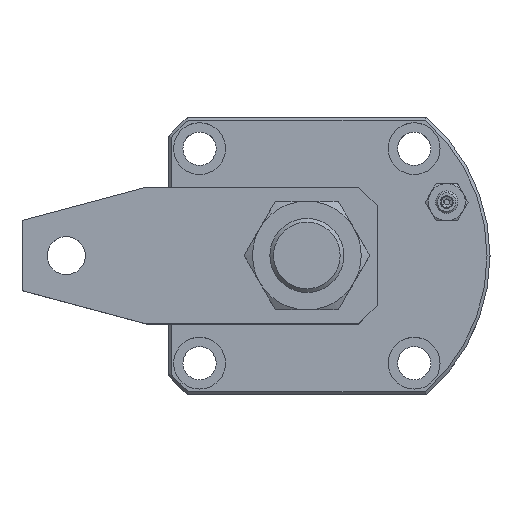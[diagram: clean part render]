
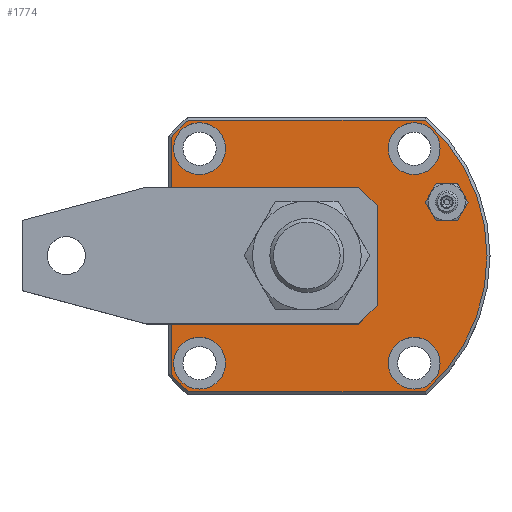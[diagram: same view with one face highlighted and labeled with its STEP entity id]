
A CAD part, top view. The second image highlights one B-rep face of the part: STEP entity #1774.
In plain terms, the highlighted planar face has unit normal (0, 0, 1).
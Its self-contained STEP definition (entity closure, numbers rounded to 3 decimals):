
#197=LINE('',#2994,#257);
#198=LINE('',#2998,#258);
#199=LINE('',#3002,#259);
#257=VECTOR('',#2491,1000.);
#258=VECTOR('',#2494,1000.);
#259=VECTOR('',#2497,1000.);
#317=ORIENTED_EDGE('',*,*,#795,.T.);
#318=ORIENTED_EDGE('',*,*,#796,.T.);
#319=ORIENTED_EDGE('',*,*,#797,.T.);
#320=ORIENTED_EDGE('',*,*,#798,.T.);
#321=ORIENTED_EDGE('',*,*,#799,.T.);
#322=ORIENTED_EDGE('',*,*,#800,.T.);
#323=ORIENTED_EDGE('',*,*,#801,.T.);
#324=ORIENTED_EDGE('',*,*,#802,.F.);
#325=ORIENTED_EDGE('',*,*,#803,.F.);
#326=ORIENTED_EDGE('',*,*,#804,.F.);
#327=ORIENTED_EDGE('',*,*,#805,.F.);
#328=ORIENTED_EDGE('',*,*,#806,.F.);
#795=EDGE_CURVE('',#1034,#1034,#1205,.T.);
#796=EDGE_CURVE('',#1035,#1036,#1206,.T.);
#797=EDGE_CURVE('',#1036,#1037,#197,.T.);
#798=EDGE_CURVE('',#1037,#1038,#1207,.T.);
#799=EDGE_CURVE('',#1038,#1039,#198,.T.);
#800=EDGE_CURVE('',#1039,#1040,#1208,.T.);
#801=EDGE_CURVE('',#1040,#1035,#199,.T.);
#802=EDGE_CURVE('',#1041,#1041,#1209,.T.);
#803=EDGE_CURVE('',#1042,#1042,#1210,.T.);
#804=EDGE_CURVE('',#1043,#1043,#1211,.T.);
#805=EDGE_CURVE('',#1044,#1044,#1212,.T.);
#806=EDGE_CURVE('',#1045,#1045,#1213,.T.);
#1034=VERTEX_POINT('',#2990);
#1035=VERTEX_POINT('',#2992);
#1036=VERTEX_POINT('',#2993);
#1037=VERTEX_POINT('',#2995);
#1038=VERTEX_POINT('',#2997);
#1039=VERTEX_POINT('',#2999);
#1040=VERTEX_POINT('',#3001);
#1041=VERTEX_POINT('',#3004);
#1042=VERTEX_POINT('',#3006);
#1043=VERTEX_POINT('',#3008);
#1044=VERTEX_POINT('',#3010);
#1045=VERTEX_POINT('',#3012);
#1205=CIRCLE('',#2263,14.);
#1206=CIRCLE('',#2264,48.7);
#1207=CIRCLE('',#2265,48.7);
#1208=CIRCLE('',#2266,48.7);
#1209=CIRCLE('',#2267,7.);
#1210=CIRCLE('',#2268,7.);
#1211=CIRCLE('',#2269,7.);
#1212=CIRCLE('',#2270,7.);
#1213=CIRCLE('',#2271,5.);
#1300=EDGE_LOOP('',(#317));
#1301=EDGE_LOOP('',(#318,#319,#320,#321,#322,#323));
#1302=EDGE_LOOP('',(#324));
#1303=EDGE_LOOP('',(#325));
#1304=EDGE_LOOP('',(#326));
#1305=EDGE_LOOP('',(#327));
#1306=EDGE_LOOP('',(#328));
#1508=FACE_BOUND('',#1300,.T.);
#1509=FACE_BOUND('',#1301,.T.);
#1510=FACE_BOUND('',#1302,.T.);
#1511=FACE_BOUND('',#1303,.T.);
#1512=FACE_BOUND('',#1304,.T.);
#1513=FACE_BOUND('',#1305,.T.);
#1514=FACE_BOUND('',#1306,.T.);
#1716=PLANE('',#2262);
#1774=ADVANCED_FACE('',(#1508,#1509,#1510,#1511,#1512,#1513,#1514),#1716,
 .T.);
#2262=AXIS2_PLACEMENT_3D('',#2988,#2485,#2486);
#2263=AXIS2_PLACEMENT_3D('',#2989,#2487,#2488);
#2264=AXIS2_PLACEMENT_3D('',#2991,#2489,#2490);
#2265=AXIS2_PLACEMENT_3D('',#2996,#2492,#2493);
#2266=AXIS2_PLACEMENT_3D('',#3000,#2495,#2496);
#2267=AXIS2_PLACEMENT_3D('',#3003,#2498,#2499);
#2268=AXIS2_PLACEMENT_3D('',#3005,#2500,#2501);
#2269=AXIS2_PLACEMENT_3D('',#3007,#2502,#2503);
#2270=AXIS2_PLACEMENT_3D('',#3009,#2504,#2505);
#2271=AXIS2_PLACEMENT_3D('',#3011,#2506,#2507);
#2485=DIRECTION('',(0.,0.,1.));
#2486=DIRECTION('',(0.,-1.,0.));
#2487=DIRECTION('',(0.,0.,-1.));
#2488=DIRECTION('',(0.,-1.,0.));
#2489=DIRECTION('',(0.,0.,1.));
#2490=DIRECTION('',(0.,-1.,0.));
#2491=DIRECTION('',(-1.,0.,0.));
#2492=DIRECTION('',(0.,0.,1.));
#2493=DIRECTION('',(0.,-1.,0.));
#2494=DIRECTION('',(0.,-1.,0.));
#2495=DIRECTION('',(0.,0.,1.));
#2496=DIRECTION('',(0.,-1.,0.));
#2497=DIRECTION('',(1.,0.,0.));
#2498=DIRECTION('',(0.,0.,1.));
#2499=DIRECTION('',(1.,0.,0.));
#2500=DIRECTION('',(0.,0.,1.));
#2501=DIRECTION('',(1.,0.,0.));
#2502=DIRECTION('',(0.,0.,1.));
#2503=DIRECTION('',(1.,0.,0.));
#2504=DIRECTION('',(0.,0.,1.));
#2505=DIRECTION('',(1.,0.,0.));
#2506=DIRECTION('',(0.,0.,1.));
#2507=DIRECTION('',(0.,-1.,0.));
#2988=CARTESIAN_POINT('',(13.75,39.5,17.));
#2989=CARTESIAN_POINT('',(13.75,39.5,17.));
#2990=CARTESIAN_POINT('',(13.75,25.5,17.));
#2991=CARTESIAN_POINT('',(13.75,39.5,17.));
#2992=CARTESIAN_POINT('',(45.762,2.8,17.));
#2993=CARTESIAN_POINT('',(45.762,76.2,17.));
#2994=CARTESIAN_POINT('',(13.75,76.2,17.));
#2995=CARTESIAN_POINT('',(-18.262,76.2,17.));
#2996=CARTESIAN_POINT('',(13.75,39.5,17.));
#2997=CARTESIAN_POINT('',(-22.95,71.512,17.));
#2998=CARTESIAN_POINT('',(-22.95,39.5,17.));
#2999=CARTESIAN_POINT('',(-22.95,7.488,17.));
#3000=CARTESIAN_POINT('',(13.75,39.5,17.));
#3001=CARTESIAN_POINT('',(-18.262,2.8,17.));
#3002=CARTESIAN_POINT('',(13.75,2.8,17.));
#3003=CARTESIAN_POINT('',(-15.25,10.5,17.));
#3004=CARTESIAN_POINT('',(-8.25,10.5,17.));
#3005=CARTESIAN_POINT('',(42.75,10.5,17.));
#3006=CARTESIAN_POINT('',(49.75,10.5,17.));
#3007=CARTESIAN_POINT('',(42.75,68.5,17.));
#3008=CARTESIAN_POINT('',(49.75,68.5,17.));
#3009=CARTESIAN_POINT('',(-15.25,68.5,17.));
#3010=CARTESIAN_POINT('',(-8.25,68.5,17.));
#3011=CARTESIAN_POINT('',(51.55,54.04,17.));
#3012=CARTESIAN_POINT('',(51.55,49.04,17.));
